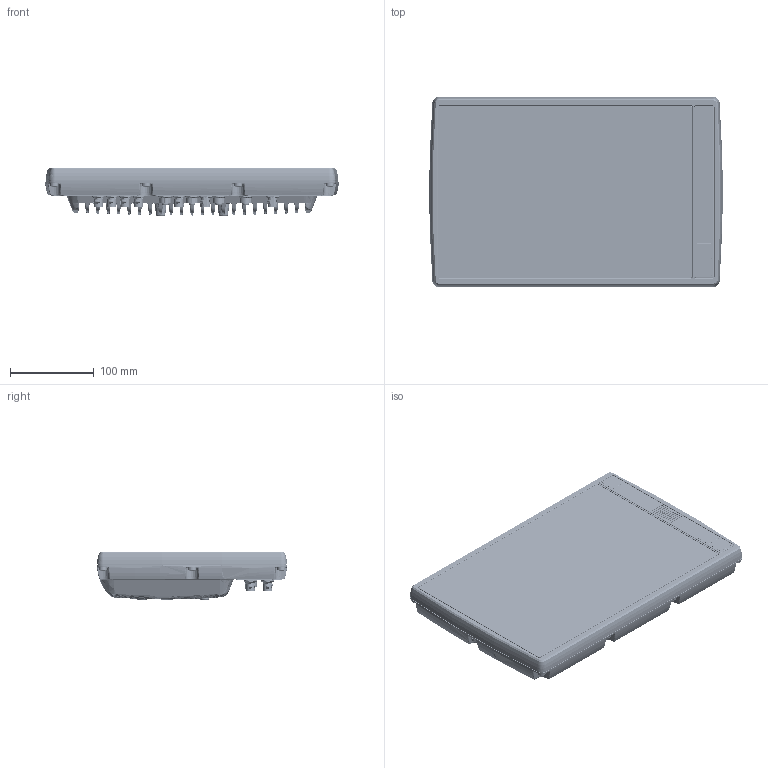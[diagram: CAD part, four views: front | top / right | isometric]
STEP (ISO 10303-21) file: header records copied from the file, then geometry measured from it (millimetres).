
FILE_DESCRIPTION(/* description */ ('Unknown'),/* implementation_level */ '2;1');
FILE_NAME(/* name */ '01_1',/* time_stamp */ '2023-05-15T08:29:04+02:00',/* author */ ('Unknown'),/* organization */ ('Unknown'),/* preprocessor_version */ 'ST-DEVELOPER v18.102',/* originating_system */ 'Solid Edge',/* authorisation */ 'Unknown');
FILE_SCHEMA (('AUTOMOTIVE_DESIGN {1 0 10303 214 3 1 1}'));
Products named in the file (35): 01_1; 25_6; 20_1; 19_5; 10_6; Powder paint RAL 9005_1; G121_2; G121x.x; 114_2; 115_3; 23_5; 22_1; 16_6; M5x10; M5; 18_3; M3; 181; 143_6; 310; 237; 235; 240; 239; 147-21_A; 140-18_A; Powder paint RAL 9005; 027; 493; 14; 026; P3; P2; P4
Assembly tree (55 placements, depth 5):
  01_1
    25_6
      20_1
        19_5
          10_6
          Powder paint RAL 9005_1
      G121_2
        G121_2
        G121x.x
      114_2
        115_3
    23_5
      22_1
        16_6
        M5x10
      Powder paint RAL 9005_1
    M5  x10
    18_3
    M3  x2
    181
    143_6
      310  x5
      237  x2
      235  x2
      240
      239
    147-21_A
      140-18_A
      Powder paint RAL 9005
    027  x4
      493
      14
    026  x2
      P3
      P2
      P4
Bounding box: 350.29 x 226.96 x 57.2 mm (x, y, z)
Volume: 3127985.8 mm3; surface area: 748355.8 mm2
Topology: 46 solids, 46 shells, 9086 faces, 23529 edges, 14955 vertices
Faces by surface type: plane 4580, cylinder 2294, bspline 1395, torus 395, cone 340, sphere 82
Full cylindrical faces by diameter (mm): 0.217 x5, 0.28 x1, 0.4 x1, 0.5 x1, 0.75 x6, 0.8 x16, 0.85 x6, 1 x42, 1.1 x10, 1.5 x15, 2 x22, 2.15 x10, 2.2 x1, 2.459 x2, 3 x4, 3.4 x2, 3.7 x1, 4.134 x20, 4.2 x2, 4.917 x8, 5 x10, 5.5 x10, 6 x2, 6.5 x3, 7.5 x4, 8 x9, 8.2 x1, 8.25 x4, 8.3 x2, 8.4 x5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
Entity records: 213171 total; most frequent: CARTESIAN_POINT 68240, ORIENTED_EDGE 23834, DIRECTION 21268, EDGE_CURVE 11917, VERTEX_POINT 7695, AXIS2_PLACEMENT_3D 7327, LINE 6614, VECTOR 6614
